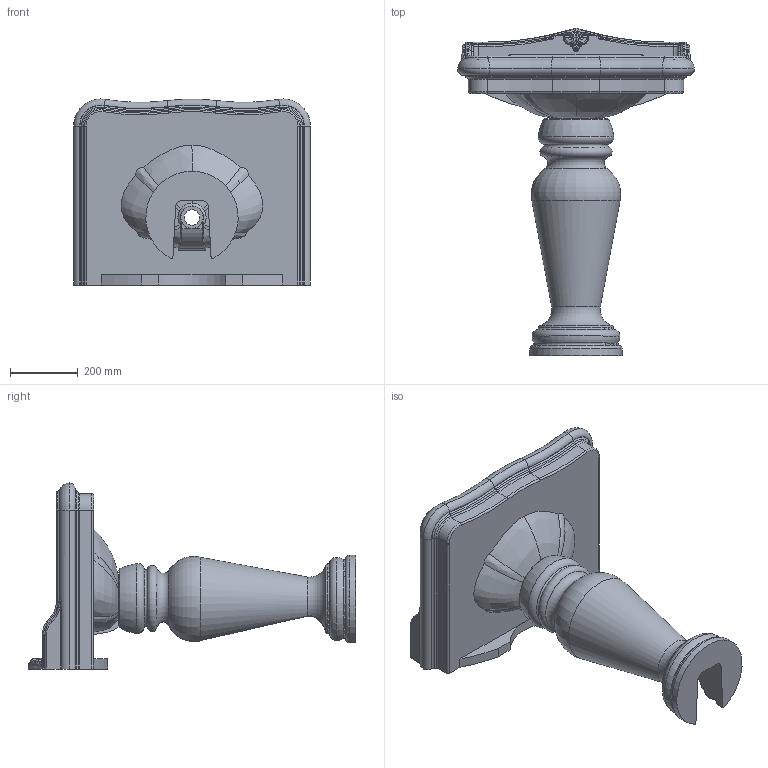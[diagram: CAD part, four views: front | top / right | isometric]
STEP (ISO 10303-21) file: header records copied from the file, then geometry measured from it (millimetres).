
FILE_DESCRIPTION (( 'STEP AP214' ), '1' );
FILE_NAME ('JUB200_70 JUB300.STEP', '2017-12-12T06:43:25', ( '' ), ( '' ), 'SwSTEP 2.0', 'SolidWorks 2018', '' );
FILE_SCHEMA (( 'AUTOMOTIVE_DESIGN' ));
Length unit declared in the file: millimetre
Products named in the file (3): JUB300; JUB200 70; JUB200_70 JUB300
Assembly tree (2 placements, depth 2):
  JUB200_70 JUB300
    JUB200 70
    JUB300
Bounding box: 700 x 968.31 x 550 mm (x, y, z)
Volume: 41104470.4 mm3; surface area: 1970175.5 mm2
Topology: 2 solids, 2 shells, 777 faces, 1817 edges, 1028 vertices
Faces by surface type: bspline 340, torus 207, cylinder 125, plane 58, sphere 42, cone 5
Full cylindrical faces by diameter (mm): 20 x1, 35 x3, 46 x1
Entity records: 70780 total; most frequent: CARTESIAN_POINT 55280, ORIENTED_EDGE 3568, DIRECTION 2905, EDGE_CURVE 1784, AXIS2_PLACEMENT_3D 1350, VERTEX_POINT 1025, CIRCLE 908, EDGE_LOOP 793
